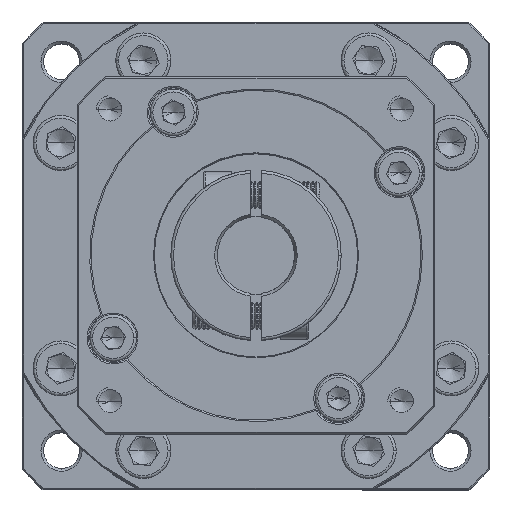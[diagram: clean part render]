
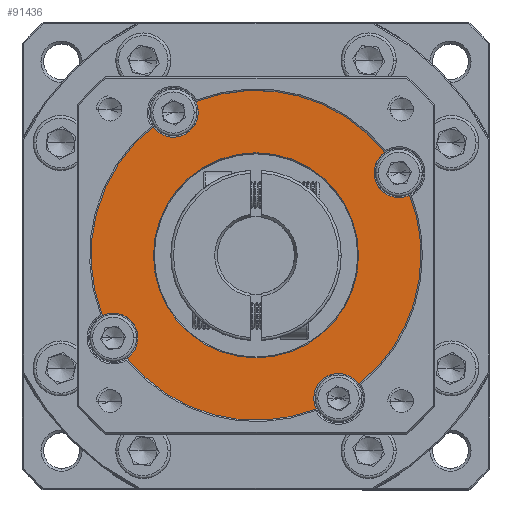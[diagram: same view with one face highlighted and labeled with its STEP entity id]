
A CAD part, top view. The second image highlights one B-rep face of the part: STEP entity #91436.
In plain terms, the highlighted planar face has unit normal (0, 0, 1).
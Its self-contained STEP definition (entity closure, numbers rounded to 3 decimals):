
#895 = ORIENTED_EDGE ( 'NONE', *, *, #3126, .F. ) ;
#2203 = ORIENTED_EDGE ( 'NONE', *, *, #84061, .F. ) ;
#3126 = EDGE_CURVE ( 'NONE', #11140, #73639, #64272, .T. ) ;
#4155 = VERTEX_POINT ( 'NONE', #111329 ) ;
#5737 = CARTESIAN_POINT ( 'NONE',  ( -96.936, 20.202, 13.42 ) ) ;
#5992 = CARTESIAN_POINT ( 'NONE',  ( -41.072, 42.092, 13.42 ) ) ;
#6082 = DIRECTION ( 'NONE',  ( 0., 0., 1. ) ) ;
#6556 = CIRCLE ( 'NONE', #68637, 30. ) ;
#7005 = VERTEX_POINT ( 'NONE', #82911 ) ;
#7357 = CARTESIAN_POINT ( 'NONE',  ( -45.559, 49.865, 13.42 ) ) ;
#7488 = CIRCLE ( 'NONE', #32830, 4.5 ) ;
#8175 = DIRECTION ( 'NONE',  ( 1., 0., 0. ) ) ;
#8352 = ORIENTED_EDGE ( 'NONE', *, *, #53213, .F. ) ;
#8625 = EDGE_CURVE ( 'NONE', #7005, #15587, #52748, .T. ) ;
#10888 = AXIS2_PLACEMENT_3D ( 'NONE', #15294, #76074, #24031 ) ;
#11029 = ORIENTED_EDGE ( 'NONE', *, *, #44492, .T. ) ;
#11140 = VERTEX_POINT ( 'NONE', #26147 ) ;
#11961 = CARTESIAN_POINT ( 'NONE',  ( -69.004, 31.147, 13.42 ) ) ;
#12056 = AXIS2_PLACEMENT_3D ( 'NONE', #50614, #111303, #59344 ) ;
#13645 = EDGE_CURVE ( 'NONE', #73812, #76411, #17974, .T. ) ;
#14173 = VERTEX_POINT ( 'NONE', #61504 ) ;
#14236 = CARTESIAN_POINT ( 'NONE',  ( -87.648, 31.147, 13.42 ) ) ;
#15294 = CARTESIAN_POINT ( 'NONE',  ( -84.004, 57.128, 13.42 ) ) ;
#15587 = VERTEX_POINT ( 'NONE', #56740 ) ;
#15625 = ORIENTED_EDGE ( 'NONE', *, *, #8625, .T. ) ;
#15658 = AXIS2_PLACEMENT_3D ( 'NONE', #50728, #111419, #59461 ) ;
#17974 = CIRCLE ( 'NONE', #12056, 30. ) ;
#18144 = CIRCLE ( 'NONE', #21814, 30. ) ;
#18874 = CARTESIAN_POINT ( 'NONE',  ( -69.004, 31.147, 13.42 ) ) ;
#20509 = FACE_BOUND ( 'NONE', #97844, .T. ) ;
#20678 = DIRECTION ( 'NONE',  ( 1., 0., 0. ) ) ;
#21294 = EDGE_CURVE ( 'NONE', #4155, #46086, #32449, .T. ) ;
#21469 = CARTESIAN_POINT ( 'NONE',  ( -54.004, 5.166, 13.42 ) ) ;
#21814 = AXIS2_PLACEMENT_3D ( 'NONE', #80702, #28604, #89457 ) ;
#22278 = DIRECTION ( 'NONE',  ( 0., 0., 1. ) ) ;
#22926 = DIRECTION ( 'NONE',  ( 0., 0., 1. ) ) ;
#23036 = AXIS2_PLACEMENT_3D ( 'NONE', #11961, #72753, #20678 ) ;
#23594 = ORIENTED_EDGE ( 'NONE', *, *, #39621, .T. ) ;
#24031 = DIRECTION ( 'NONE',  ( 1., 0., 0. ) ) ;
#26147 = CARTESIAN_POINT ( 'NONE',  ( -79.504, 57.128, 13.42 ) ) ;
#26632 = DIRECTION ( 'NONE',  ( 0., 0., 1. ) ) ;
#27109 = CIRCLE ( 'NONE', #10888, 4.5 ) ;
#27523 = VERTEX_POINT ( 'NONE', #73253 ) ;
#27596 = DIRECTION ( 'NONE',  ( 1., 0., 0. ) ) ;
#28604 = DIRECTION ( 'NONE',  ( 0., 0., 1. ) ) ;
#30221 = DIRECTION ( 'NONE',  ( 1., 0., 0. ) ) ;
#30940 = EDGE_CURVE ( 'NONE', #7005, #4155, #92297, .T. ) ;
#32449 = CIRCLE ( 'NONE', #80160, 4.5 ) ;
#32830 = AXIS2_PLACEMENT_3D ( 'NONE', #58146, #6082, #66917 ) ;
#32917 = VERTEX_POINT ( 'NONE', #98772 ) ;
#33329 = CARTESIAN_POINT ( 'NONE',  ( -69.004, 31.147, 13.42 ) ) ;
#33381 = CARTESIAN_POINT ( 'NONE',  ( -79.949, 59.079, 13.42 ) ) ;
#35550 = VERTEX_POINT ( 'NONE', #14236 ) ;
#38079 = AXIS2_PLACEMENT_3D ( 'NONE', #21469, #82304, #30221 ) ;
#39621 = EDGE_CURVE ( 'NONE', #35550, #32917, #63867, .T. ) ;
#40503 = CARTESIAN_POINT ( 'NONE',  ( -69.004, 31.147, 13.42 ) ) ;
#40899 = FACE_OUTER_BOUND ( 'NONE', #95524, .T. ) ;
#41940 = ORIENTED_EDGE ( 'NONE', *, *, #99659, .T. ) ;
#42065 = DIRECTION ( 'NONE',  ( 1., 0., 0. ) ) ;
#44492 = EDGE_CURVE ( 'NONE', #76411, #89020, #18144, .T. ) ;
#46086 = VERTEX_POINT ( 'NONE', #5737 ) ;
#47315 = CARTESIAN_POINT ( 'NONE',  ( -69.004, 31.147, 13.42 ) ) ;
#49240 = DIRECTION ( 'NONE',  ( 1., 0., 0. ) ) ;
#50614 = CARTESIAN_POINT ( 'NONE',  ( -69.004, 31.147, 13.42 ) ) ;
#50728 = CARTESIAN_POINT ( 'NONE',  ( -43.023, 46.147, 13.42 ) ) ;
#51041 = ORIENTED_EDGE ( 'NONE', *, *, #67714, .F. ) ;
#52748 = CIRCLE ( 'NONE', #23036, 30. ) ;
#53213 = EDGE_CURVE ( 'NONE', #87778, #89020, #83612, .T. ) ;
#54251 = ORIENTED_EDGE ( 'NONE', *, *, #21294, .F. ) ;
#54722 = EDGE_CURVE ( 'NONE', #27523, #11140, #27109, .T. ) ;
#55358 = AXIS2_PLACEMENT_3D ( 'NONE', #40503, #101284, #49240 ) ;
#55999 = DIRECTION ( 'NONE',  ( 1., 0., 0. ) ) ;
#56740 = CARTESIAN_POINT ( 'NONE',  ( -58.059, 3.215, 13.42 ) ) ;
#57853 = VERTEX_POINT ( 'NONE', #7357 ) ;
#58146 = CARTESIAN_POINT ( 'NONE',  ( -43.023, 46.147, 13.42 ) ) ;
#59069 = CARTESIAN_POINT ( 'NONE',  ( -47.523, 46.147, 13.42 ) ) ;
#59344 = DIRECTION ( 'NONE',  ( 1., 0., 0. ) ) ;
#59461 = DIRECTION ( 'NONE',  ( 1., 0., 0. ) ) ;
#60218 = DIRECTION ( 'NONE',  ( 0., 0., 1. ) ) ;
#61504 = CARTESIAN_POINT ( 'NONE',  ( -58.504, 5.166, 13.42 ) ) ;
#63867 = CIRCLE ( 'NONE', #78132, 18.644 ) ;
#63918 = EDGE_CURVE ( 'NONE', #27523, #46086, #76377, .T. ) ;
#64272 = CIRCLE ( 'NONE', #98653, 4.5 ) ;
#65325 = AXIS2_PLACEMENT_3D ( 'NONE', #112205, #60218, #8175 ) ;
#66917 = DIRECTION ( 'NONE',  ( 1., 0., 0. ) ) ;
#67714 = EDGE_CURVE ( 'NONE', #14173, #15587, #107965, .T. ) ;
#68637 = AXIS2_PLACEMENT_3D ( 'NONE', #33329, #94061, #42065 ) ;
#72753 = DIRECTION ( 'NONE',  ( 0., 0., 1. ) ) ;
#72930 = ORIENTED_EDGE ( 'NONE', *, *, #100665, .T. ) ;
#73045 = EDGE_CURVE ( 'NONE', #57853, #87778, #7488, .T. ) ;
#73253 = CARTESIAN_POINT ( 'NONE',  ( -87.721, 54.592, 13.42 ) ) ;
#73639 = VERTEX_POINT ( 'NONE', #33381 ) ;
#73812 = VERTEX_POINT ( 'NONE', #98636 ) ;
#74333 = CARTESIAN_POINT ( 'NONE',  ( -94.985, 16.147, 13.42 ) ) ;
#74662 = PLANE ( 'NONE',  #55358 ) ;
#74973 = CARTESIAN_POINT ( 'NONE',  ( -94.985, 16.147, 13.42 ) ) ;
#75800 = AXIS2_PLACEMENT_3D ( 'NONE', #18874, #79680, #27596 ) ;
#76074 = DIRECTION ( 'NONE',  ( 0., 0., 1. ) ) ;
#76377 = CIRCLE ( 'NONE', #103681, 30. ) ;
#76411 = VERTEX_POINT ( 'NONE', #80301 ) ;
#78132 = AXIS2_PLACEMENT_3D ( 'NONE', #47315, #107979, #55999 ) ;
#78722 = CARTESIAN_POINT ( 'NONE',  ( -69.004, 31.147, 13.42 ) ) ;
#79680 = DIRECTION ( 'NONE',  ( 0., 0., -1. ) ) ;
#80160 = AXIS2_PLACEMENT_3D ( 'NONE', #74333, #22278, #83115 ) ;
#80301 = CARTESIAN_POINT ( 'NONE',  ( -39.004, 31.147, 13.42 ) ) ;
#80702 = CARTESIAN_POINT ( 'NONE',  ( -69.004, 31.147, 13.42 ) ) ;
#82304 = DIRECTION ( 'NONE',  ( 0., 0., 1. ) ) ;
#82759 = ORIENTED_EDGE ( 'NONE', *, *, #63918, .T. ) ;
#82911 = CARTESIAN_POINT ( 'NONE',  ( -92.449, 12.43, 13.42 ) ) ;
#83115 = DIRECTION ( 'NONE',  ( 1., 0., 0. ) ) ;
#83612 = CIRCLE ( 'NONE', #15658, 4.5 ) ;
#83770 = DIRECTION ( 'NONE',  ( 1., 0., 0. ) ) ;
#84061 = EDGE_CURVE ( 'NONE', #73812, #14173, #101185, .T. ) ;
#84568 = CIRCLE ( 'NONE', #75800, 18.644 ) ;
#87464 = DIRECTION ( 'NONE',  ( 1., 0., 0. ) ) ;
#87778 = VERTEX_POINT ( 'NONE', #59069 ) ;
#89020 = VERTEX_POINT ( 'NONE', #5992 ) ;
#89457 = DIRECTION ( 'NONE',  ( 1., 0., 0. ) ) ;
#90378 = ORIENTED_EDGE ( 'NONE', *, *, #30940, .F. ) ;
#91436 = ADVANCED_FACE ( 'NONE', ( #20509, #40899 ), #74662, .T. ) ;
#92297 = CIRCLE ( 'NONE', #98393, 4.5 ) ;
#94061 = DIRECTION ( 'NONE',  ( 0., 0., 1. ) ) ;
#95524 = EDGE_LOOP ( 'NONE', ( #90378, #15625, #51041, #2203, #108719, #11029, #8352, #110346, #72930, #895, #111053, #82759, #54251 ) ) ;
#96243 = DIRECTION ( 'NONE',  ( 1., 0., 0. ) ) ;
#96531 = DIRECTION ( 'NONE',  ( 0., 0., 1. ) ) ;
#96775 = CARTESIAN_POINT ( 'NONE',  ( -84.004, 57.128, 13.42 ) ) ;
#97844 = EDGE_LOOP ( 'NONE', ( #41940, #23594 ) ) ;
#98393 = AXIS2_PLACEMENT_3D ( 'NONE', #74973, #22926, #83770 ) ;
#98636 = CARTESIAN_POINT ( 'NONE',  ( -50.287, 7.702, 13.42 ) ) ;
#98653 = AXIS2_PLACEMENT_3D ( 'NONE', #96775, #96531, #96243 ) ;
#98772 = CARTESIAN_POINT ( 'NONE',  ( -50.36, 31.147, 13.42 ) ) ;
#99659 = EDGE_CURVE ( 'NONE', #32917, #35550, #84568, .T. ) ;
#100665 = EDGE_CURVE ( 'NONE', #57853, #73639, #6556, .T. ) ;
#101185 = CIRCLE ( 'NONE', #65325, 4.5 ) ;
#101284 = DIRECTION ( 'NONE',  ( 0., 0., 1. ) ) ;
#103681 = AXIS2_PLACEMENT_3D ( 'NONE', #78722, #26632, #87464 ) ;
#107965 = CIRCLE ( 'NONE', #38079, 4.5 ) ;
#107979 = DIRECTION ( 'NONE',  ( 0., 0., -1. ) ) ;
#108719 = ORIENTED_EDGE ( 'NONE', *, *, #13645, .T. ) ;
#110346 = ORIENTED_EDGE ( 'NONE', *, *, #73045, .F. ) ;
#111053 = ORIENTED_EDGE ( 'NONE', *, *, #54722, .F. ) ;
#111303 = DIRECTION ( 'NONE',  ( 0., 0., 1. ) ) ;
#111329 = CARTESIAN_POINT ( 'NONE',  ( -90.485, 16.147, 13.42 ) ) ;
#111419 = DIRECTION ( 'NONE',  ( 0., 0., 1. ) ) ;
#112205 = CARTESIAN_POINT ( 'NONE',  ( -54.004, 5.166, 13.42 ) ) ;
